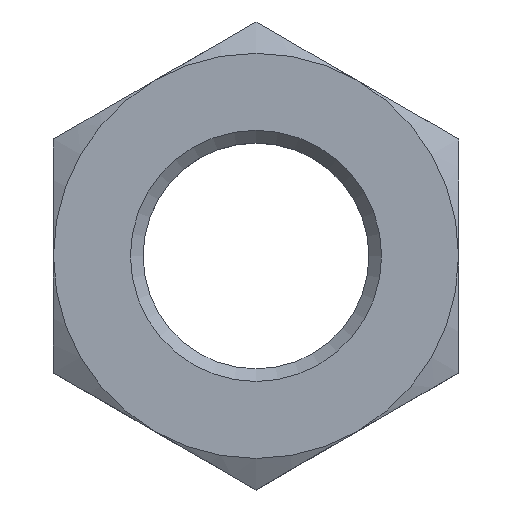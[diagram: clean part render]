
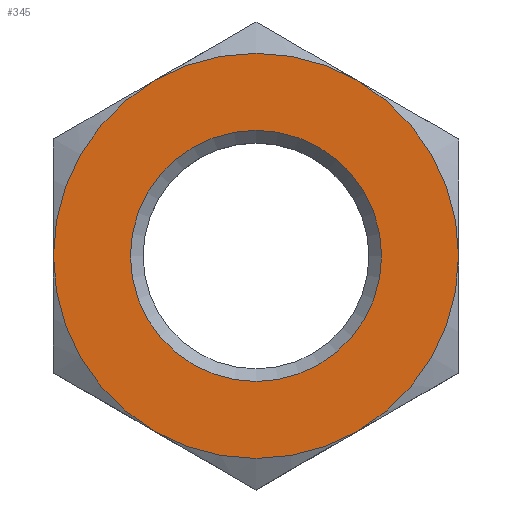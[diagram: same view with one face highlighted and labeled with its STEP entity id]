
A CAD part, top view. The second image highlights one B-rep face of the part: STEP entity #345.
In plain terms, the highlighted planar face has unit normal (0, 0, 1).
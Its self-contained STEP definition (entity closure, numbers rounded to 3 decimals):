
#16=FACE_BOUND('',#88,.T.);
#40=PLANE('',#408);
#63=FACE_OUTER_BOUND('',#87,.T.);
#87=EDGE_LOOP('',(#287,#288,#289,#290,#291,#292));
#88=EDGE_LOOP('',(#293));
#98=CIRCLE('',#385,8.);
#99=CIRCLE('',#387,8.);
#100=CIRCLE('',#389,8.);
#101=CIRCLE('',#391,8.);
#102=CIRCLE('',#393,8.);
#103=CIRCLE('',#395,8.);
#108=CIRCLE('',#407,4.959);
#145=VERTEX_POINT('',#565);
#147=VERTEX_POINT('',#570);
#149=VERTEX_POINT('',#577);
#150=VERTEX_POINT('',#586);
#153=VERTEX_POINT('',#597);
#154=VERTEX_POINT('',#606);
#161=VERTEX_POINT('',#645);
#181=EDGE_CURVE('',#147,#145,#98,.T.);
#185=EDGE_CURVE('',#149,#147,#99,.T.);
#187=EDGE_CURVE('',#145,#150,#100,.T.);
#191=EDGE_CURVE('',#153,#149,#101,.T.);
#193=EDGE_CURVE('',#150,#154,#102,.T.);
#197=EDGE_CURVE('',#154,#153,#103,.T.);
#208=EDGE_CURVE('',#161,#161,#108,.T.);
#287=ORIENTED_EDGE('',*,*,#181,.T.);
#288=ORIENTED_EDGE('',*,*,#187,.T.);
#289=ORIENTED_EDGE('',*,*,#193,.T.);
#290=ORIENTED_EDGE('',*,*,#197,.T.);
#291=ORIENTED_EDGE('',*,*,#191,.T.);
#292=ORIENTED_EDGE('',*,*,#185,.T.);
#293=ORIENTED_EDGE('',*,*,#208,.F.);
#345=ADVANCED_FACE('',(#63,#16),#40,.T.);
#385=AXIS2_PLACEMENT_3D('',#571,#440,#441);
#387=AXIS2_PLACEMENT_3D('',#584,#444,#445);
#389=AXIS2_PLACEMENT_3D('',#591,#448,#449);
#391=AXIS2_PLACEMENT_3D('',#604,#452,#453);
#393=AXIS2_PLACEMENT_3D('',#611,#456,#457);
#395=AXIS2_PLACEMENT_3D('',#623,#460,#461);
#407=AXIS2_PLACEMENT_3D('',#646,#490,#491);
#408=AXIS2_PLACEMENT_3D('',#648,#493,#494);
#440=DIRECTION('center_axis',(0.,0.,1.));
#441=DIRECTION('ref_axis',(0.,-1.,0.));
#444=DIRECTION('center_axis',(0.,0.,1.));
#445=DIRECTION('ref_axis',(0.,-1.,0.));
#448=DIRECTION('center_axis',(0.,0.,1.));
#449=DIRECTION('ref_axis',(0.,-1.,0.));
#452=DIRECTION('center_axis',(0.,0.,1.));
#453=DIRECTION('ref_axis',(0.,-1.,0.));
#456=DIRECTION('center_axis',(0.,0.,1.));
#457=DIRECTION('ref_axis',(0.,-1.,0.));
#460=DIRECTION('center_axis',(0.,0.,1.));
#461=DIRECTION('ref_axis',(0.,-1.,0.));
#490=DIRECTION('center_axis',(0.,0.,1.));
#491=DIRECTION('ref_axis',(-1.,0.,0.));
#493=DIRECTION('center_axis',(0.,0.,1.));
#494=DIRECTION('ref_axis',(1.,0.,0.));
#565=CARTESIAN_POINT('',(-8.,0.,5.));
#570=CARTESIAN_POINT('',(-4.,6.928,5.));
#571=CARTESIAN_POINT('Origin',(0.,0.,5.));
#577=CARTESIAN_POINT('',(4.,6.928,5.));
#584=CARTESIAN_POINT('Origin',(0.,0.,5.));
#586=CARTESIAN_POINT('',(-4.,-6.928,5.));
#591=CARTESIAN_POINT('Origin',(0.,0.,5.));
#597=CARTESIAN_POINT('',(8.,0.,5.));
#604=CARTESIAN_POINT('Origin',(0.,0.,5.));
#606=CARTESIAN_POINT('',(4.,-6.928,5.));
#611=CARTESIAN_POINT('Origin',(0.,0.,5.));
#623=CARTESIAN_POINT('Origin',(0.,0.,5.));
#645=CARTESIAN_POINT('',(4.959,0.,5.));
#646=CARTESIAN_POINT('Origin',(0.,0.,
5.));
#648=CARTESIAN_POINT('Origin',(0.,0.,5.));
